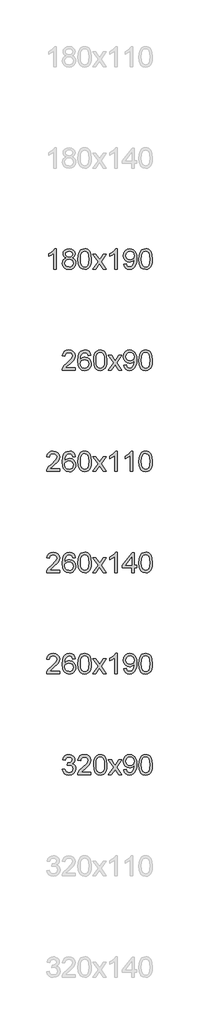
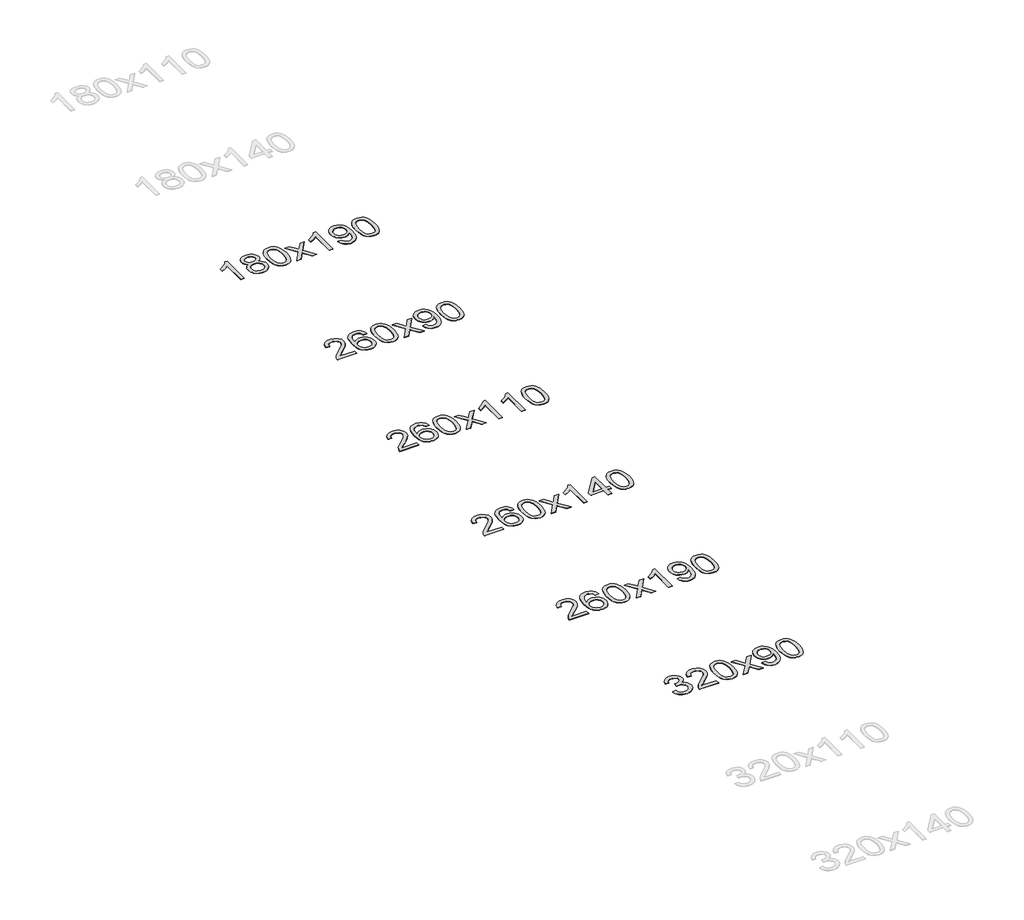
# One storey, part 12 of 17: 6 proxies.
"""IFC4 building model written with IfcOpenShell, lengths in millimetres."""

from ifc_helpers import new_model, si_unit, origin, origin_with_axes, place, context, project, spatial, polyline, outline, extrude, element, save

model = new_model("IFC4")

# Units and contexts
model_context = context("Model", 3, world=origin())
ifc_project = project(units=[si_unit("LENGTHUNIT", "METRE", prefix="MILLI")], contexts=[model_context])

# Site, building, storey
site = spatial("IfcSite", under=ifc_project)
building = spatial("IfcBuilding", under=site)
storey = spatial("IfcBuildingStorey", under=building, Name="Уровень 1", Elevation=0.0)

# Proxies
placement = place(None, origin())
element("IfcBuildingElementProxy", 1, Name="Текст модели 1", ObjectType="Текст модели 1", at=placement, inside=storey, context=model_context, shape_type="SweptSolid", body=[
    extrude(outline(polyline([(34352.7463706, -453.2424702), (34327.632293, -453.2424702), (34327.632293, -296.6718931), (34303.8425907, -313.6189903), (34277.4041379, -326.2986564), (34277.4041379, -302.558005), (34314.2168629, -279.0626083), (34327.6874753, -265.4877626), (34336.5595628, -252.3298499), (34352.7463706, -252.3298499), (34352.7463706, -453.2424702)])), origin_with_axes(), (0.0, 0.0, 1.0), 2.0),
    extrude(outline(polyline([(34448.9843005, -342.5835661), (34435.5382136, -335.9616902), (34426.1020404, -326.9853695), (34420.5286282, -315.838545), (34418.6708241, -302.7051578), (34422.717526, -283.072522), (34434.8576319, -266.848926), (34453.7299782, -255.959619), (34477.9734017, -252.3298499), (34502.363978, -256.0454581), (34521.481579, -267.1922826), (34533.842414, -283.6733959), (34537.9626924, -303.3918709), (34536.1294138, -316.1021938), (34530.629578, -327.0589459), (34521.4018712, -335.9800843), (34508.38498, -342.5835661), (34523.8421551, -350.5482113), (34535.0932128, -362.2775156), (34541.954212, -377.2073932), (34544.2412118, -394.7737585), (34539.7040005, -418.78419), (34526.0923667, -438.6252923), (34505.074042, -451.9426205), (34478.3167582, -456.3817299), (34451.5594745, -451.9242264), (34430.5411498, -438.5517159), (34416.929516, -418.5205413), (34412.3923047, -394.0870454), (34414.7712749, -375.8400985), (34421.9081856, -360.8305131), (34433.4351548, -349.573324), (34448.9843005, -342.5835661)]), holes=[polyline([(34443.7849016, -303.4409218), (34446.0105877, -314.4038053), (34452.6876459, -323.1593968), (34463.6198725, -328.8983559), (34478.6110638, -330.8113423), (34493.2527672, -328.9106186), (34504.019447, -323.2084477), (34510.6413229, -314.7471618), (34512.8486149, -304.5690933), (34510.5677465, -294.0047486), (34503.7251414, -285.2675513), (34492.8113088, -279.3998334), (34478.3167582, -277.4439275), (34463.7302371, -279.3569139), (34452.8347987, -285.095873), (34446.0473759, -293.5081079), (34443.7849016, -303.4409218)]), polyline([(34437.5063822, -393.2041286), (34441.700237, -412.1132632), (34447.5066411, -420.2250612), (34456.5381441, -426.2644573), (34478.512962, -431.2676524), (34495.607212, -428.6372961), (34508.4340309, -420.7462273), (34516.4538584, -408.7961939), (34519.1271342, -393.9889436), (34516.3680193, -378.9303072), (34508.0906744, -366.716625), (34494.9695499, -358.6232211), (34477.6790961, -355.9254198), (34460.8239694, -358.5864329), (34448.1259092, -366.5694722), (34440.161264, -378.5501625), (34437.5063822, -393.2041286)])]), origin_with_axes(), (0.0, 0.0, 1.0), 2.0),
    extrude(outline(polyline([(34566.2160296, -354.4048409), (34568.061571, -322.2458231), (34573.598195, -296.5983167), (34582.7707194, -277.0699141), (34595.5239619, -263.2682079), (34611.949893, -255.0644394), (34632.1404832, -252.3298499), (34647.6160524, -253.9485307), (34661.4729409, -258.8045731), (34673.0612238, -266.7079046), (34681.7309761, -277.468453), (34693.5032, -307.1933182), (34698.0649367, -354.4048409), (34696.2377894, -386.3799176), (34690.7563477, -411.9661104), (34681.6390056, -431.5129071), (34668.9041572, -445.3697956), (34652.4414379, -453.6287463), (34632.1404832, -456.3817299), (34606.045387, -451.599264), (34586.2288102, -437.2518662), (34577.4732187, -422.1227191), (34571.2192248, -403.2718326), (34566.2160296, -354.4048409)]), holes=[polyline([(34591.3301072, -354.3557899), (34594.2731631, -393.8601849), (34603.102331, -416.7240509), (34616.247981, -427.631752), (34632.1404832, -431.2676524), (34648.0329853, -427.6194893), (34661.1786353, -416.6749999), (34670.0078032, -393.7988712), (34672.9508592, -354.3557899), (34670.1059051, -315.7404432), (34661.5710428, -292.6987676), (34648.4499183, -281.2576375), (34631.8461776, -277.4439275), (34616.1253536, -280.8039164), (34603.4947385, -290.883883), (34594.371265, -315.3602985), (34591.3301072, -354.3557899)])]), origin_with_axes(), (0.0, 0.0, 1.0), 2.0),
    extrude(outline(polyline([(34710.6219755, -453.2424702), (34764.2836958, -379.07746), (34713.7612352, -305.6972647), (34743.9766097, -305.6972647), (34768.3549232, -341.0139363), (34779.7347396, -357.6912534), (34789.5939771, -344.0550941), (34817.356805, -305.6972647), (34847.5721795, -305.6972647), (34794.4990704, -379.07746), (34845.6101422, -453.2424702), (34815.3947677, -453.2424702), (34784.6398329, -408.6551724), (34778.9989756, -400.5127176), (34740.83735, -453.2424702), (34710.6219755, -453.2424702)])), origin_with_axes(), (0.0, 0.0, 1.0), 2.0),
    extrude(outline(polyline([(34955.4842314, -453.2424702), (34930.3701539, -453.2424702), (34930.3701539, -296.6718931), (34906.5804516, -313.6189903), (34880.1419988, -326.2986564), (34880.1419988, -302.558005), (34916.9547238, -279.0626083), (34930.4253362, -265.4877626), (34939.2974237, -252.3298499), (34955.4842314, -252.3298499), (34955.4842314, -453.2424702)])), origin_with_axes(), (0.0, 0.0, 1.0), 2.0),
    extrude(outline(polyline([(35018.2694253, -403.0143152), (35043.3835028, -399.8750555), (35047.6754594, -414.1304828), (35054.6652173, -423.8364361), (35064.1810983, -429.4098483), (35076.051424, -431.2676524), (35096.3830356, -426.4851865), (35110.1663477, -413.7074185), (35118.3823789, -391.8797535), (35122.0121479, -362.7434994), (35121.8649951, -357.8384062), (35113.1645859, -368.4579331), (35101.7786382, -376.870168), (35088.528755, -382.3516098), (35074.2365395, -384.178757), (35051.3358853, -379.7151221), (35032.2734666, -366.3242175), (35019.4159908, -345.6369867), (35015.1301656, -319.2843731), (35019.6244573, -292.0611054), (35033.1073324, -270.7239497), (35053.3592363, -256.9283749), (35078.1606141, -252.3298499), (35096.891939, -254.9540748), (35113.9432695, -262.8267495), (35128.2048282, -275.5554666), (35138.5668377, -292.7478185), (35144.8760139, -316.5129954), (35146.9790727, -348.9601873), (35144.8821453, -383.3632853), (35138.5913632, -409.9550221), (35128.1619086, -429.9371459), (35113.6489639, -444.5114042), (35095.6779284, -453.4141485), (35074.8742016, -456.3817299), (35053.4021558, -452.8807196), (35036.2711176, -442.3776887), (35024.2904273, -425.5348246), (35018.2694253, -403.0143152)]), holes=[polyline([(35121.8649951, -318.6957619), (35119.1549311, -301.6750882), (35111.024739, -288.5784892), (35098.4063866, -280.2275679), (35082.2318415, -277.4439275), (35065.4564225, -280.4421657), (35052.016467, -289.4368805), (35043.1872991, -303.2017985), (35040.2442431, -320.5106464), (35043.0278836, -336.0291352), (35051.3788049, -348.3470507), (35064.4876666, -356.3852723), (35081.5451285, -359.0646795), (35097.5909148, -356.3852723), (35110.5097042, -348.3470507), (35119.0261724, -335.5754141), (35121.8649951, -318.6957619)])]), origin_with_axes(), (0.0, 0.0, 1.0), 2.0),
    extrude(outline(polyline([(35168.9538905, -354.4048409), (35170.7994319, -322.2458231), (35176.3360559, -296.5983167), (35185.5085803, -277.0699141), (35198.2618228, -263.2682079), (35214.6877539, -255.0644394), (35234.8783441, -252.3298499), (35250.3539133, -253.9485307), (35264.2108018, -258.8045731), (35275.7990847, -266.7079046), (35284.468837, -277.468453), (35296.2410608, -307.1933182), (35300.8027976, -354.4048409), (35298.9756503, -386.3799176), (35293.4942086, -411.9661104), (35284.3768665, -431.5129071), (35271.6420181, -445.3697956), (35255.1792988, -453.6287463), (35234.8783441, -456.3817299), (35208.7832479, -451.599264), (35188.9666711, -437.2518662), (35180.2110796, -422.1227191), (35173.9570857, -403.2718326), (35168.9538905, -354.4048409)]), holes=[polyline([(35194.0679681, -354.3557899), (35197.011024, -393.8601849), (35205.8401919, -416.7240509), (35218.9858419, -427.631752), (35234.8783441, -431.2676524), (35250.7708462, -427.6194893), (35263.9164962, -416.6749999), (35272.7456641, -393.7988712), (35275.6887201, -354.3557899), (35272.843766, -315.7404432), (35264.3089037, -292.6987676), (35251.1877792, -281.2576375), (35234.5840385, -277.4439275), (35218.8632145, -280.8039164), (35206.2325994, -290.883883), (35197.1091259, -315.3602985), (35194.0679681, -354.3557899)])]), origin_with_axes(), (0.0, 0.0, 1.0), 2.0),
])
element("IfcBuildingElementProxy", 2, Name="Текст модели 1", ObjectType="Текст модели 1", at=placement, inside=storey, context=model_context, shape_type="SweptSolid", body=[
    extrude(outline(polyline([(34387.2782272, -3428.1283927), (34387.2782272, -3453.2424702), (34255.4293201, -3453.2424702), (34258.1271214, -3435.927491), (34273.3819615, -3409.2683091), (34304.8236093, -3380.1565805), (34348.1846338, -3338.316135), (34356.3148259, -3323.8951607), (34359.0248899, -3309.866594), (34356.4681101, -3297.2911611), (34348.7977705, -3286.8371811), (34337.0071525, -3279.7922409), (34322.0895376, -3277.4439275), (34306.423896, -3279.7370586), (34294.2531333, -3286.6164519), (34286.3988527, -3297.5425472), (34283.6826573, -3311.9757841), (34258.5685798, -3308.8365244), (34264.6570268, -3284.54405), (34277.8210709, -3266.7998751), (34297.3739989, -3255.9473562), (34322.6290979, -3252.3298499), (34348.0681378, -3256.3520264), (34367.5842777, -3268.4185559), (34380.000295, -3286.4447736), (34384.1389675, -3308.3460151), (34379.6753326, -3332.1602429), (34364.8374255, -3356.7838111), (34328.8585663, -3391.1930404), (34299.967567, -3415.3506247), (34288.6368015, -3428.1283927), (34387.2782272, -3428.1283927)])), origin_with_axes(), (0.0, 0.0, 1.0), 2.0),
    extrude(outline(polyline([(34541.1019521, -3305.6972647), (34515.9878745, -3308.8365244), (34506.4719936, -3287.8917761), (34495.0799145, -3280.0558897), (34481.3088651, -3277.4439275), (34458.6473342, -3283.5262431), (34449.2111611, -3293.1340946), (34441.5040333, -3306.3594523), (34436.298503, -3325.0662518), (34434.3671225, -3351.1184284), (34444.4409578, -3339.3645986), (34456.5136187, -3331.0811224), (34469.9106546, -3326.1698977), (34483.9576155, -3324.5328229), (34507.1587067, -3329.0087205), (34526.6319269, -3342.4364133), (34539.8388906, -3362.9519659), (34544.2412118, -3388.6914428), (34542.1688099, -3406.674741), (34535.9516042, -3423.3459268), (34526.1046294, -3437.4848581), (34513.1429204, -3447.8713931), (34497.6550885, -3454.2541457), (34480.2297446, -3456.3817299), (34451.7372841, -3450.7408727), (34429.0450964, -3433.8183009), (34420.3860739, -3420.7094391), (34414.2010578, -3403.9462829), (34409.253045, -3359.4570869), (34414.7467495, -3309.4373983), (34421.61388, -3290.3596512), (34431.2278629, -3275.2366355), (34441.6481204, -3265.2149168), (34453.7299782, -3258.0565463), (34482.878495, -3252.3298499), (34504.9146265, -3255.8737798), (34522.5606995, -3266.5055695), (34534.9215346, -3283.3913531), (34541.1019521, -3305.6972647)]), holes=[polyline([(34434.3671225, -3388.2990354), (34440.1796581, -3410.053124), (34455.6307019, -3425.8475243), (34478.2677073, -3431.2676524), (34494.8407912, -3428.4594865), (34507.8699452, -3420.0349888), (34516.312837, -3406.791237), (34519.1271342, -3389.5253087), (34516.3496252, -3372.9522248), (34508.017098, -3360.3154783), (34494.7672148, -3352.3140449), (34477.2376377, -3349.6469004), (34460.6890793, -3352.3140449), (34446.8505849, -3360.3154783), (34437.4879881, -3372.6456565), (34434.3671225, -3388.2990354)])]), origin_with_axes(), (0.0, 0.0, 1.0), 2.0),
    extrude(outline(polyline([(34566.2160296, -3354.4048409), (34568.061571, -3322.2458231), (34573.598195, -3296.5983167), (34582.7707194, -3277.0699141), (34595.5239619, -3263.2682079), (34611.949893, -3255.0644394), (34632.1404832, -3252.3298499), (34647.6160524, -3253.9485307), (34661.4729409, -3258.8045731), (34673.0612238, -3266.7079046), (34681.7309761, -3277.468453), (34693.5032, -3307.1933182), (34698.0649367, -3354.4048409), (34696.2377894, -3386.3799176), (34690.7563477, -3411.9661104), (34681.6390056, -3431.5129071), (34668.9041572, -3445.3697956), (34652.4414379, -3453.6287463), (34632.1404832, -3456.3817299), (34606.045387, -3451.599264), (34586.2288102, -3437.2518662), (34577.4732187, -3422.1227191), (34571.2192248, -3403.2718326), (34566.2160296, -3354.4048409)]), holes=[polyline([(34591.3301072, -3354.3557899), (34594.2731631, -3393.8601849), (34603.102331, -3416.7240509), (34616.247981, -3427.631752), (34632.1404832, -3431.2676524), (34648.0329853, -3427.6194893), (34661.1786353, -3416.6749999), (34670.0078032, -3393.7988712), (34672.9508592, -3354.3557899), (34670.1059051, -3315.7404432), (34661.5710428, -3292.6987676), (34648.4499183, -3281.2576375), (34631.8461776, -3277.4439275), (34616.1253536, -3280.8039164), (34603.4947385, -3290.883883), (34594.371265, -3315.3602985), (34591.3301072, -3354.3557899)])]), origin_with_axes(), (0.0, 0.0, 1.0), 2.0),
    extrude(outline(polyline([(34710.6219755, -3453.2424702), (34764.2836958, -3379.07746), (34713.7612352, -3305.6972647), (34743.9766097, -3305.6972647), (34768.3549232, -3341.0139363), (34779.7347396, -3357.6912534), (34789.5939771, -3344.0550941), (34817.356805, -3305.6972647), (34847.5721795, -3305.6972647), (34794.4990704, -3379.07746), (34845.6101422, -3453.2424702), (34815.3947677, -3453.2424702), (34784.6398329, -3408.6551724), (34778.9989756, -3400.5127176), (34740.83735, -3453.2424702), (34710.6219755, -3453.2424702)])), origin_with_axes(), (0.0, 0.0, 1.0), 2.0),
    extrude(outline(polyline([(34955.4842314, -3453.2424702), (34930.3701539, -3453.2424702), (34930.3701539, -3296.6718931), (34906.5804516, -3313.6189903), (34880.1419988, -3326.2986564), (34880.1419988, -3302.558005), (34916.9547238, -3279.0626083), (34930.4253362, -3265.4877626), (34939.2974237, -3252.3298499), (34955.4842314, -3252.3298499), (34955.4842314, -3453.2424702)])), origin_with_axes(), (0.0, 0.0, 1.0), 2.0),
    extrude(outline(polyline([(35096.7509176, -3453.2424702), (35096.7509176, -3406.1535749), (35005.7123865, -3406.1535749), (35005.7123865, -3381.0394973), (35103.029437, -3255.4691096), (35121.8649951, -3255.4691096), (35121.8649951, -3381.0394973), (35146.9790727, -3381.0394973), (35146.9790727, -3406.1535749), (35121.8649951, -3406.1535749), (35121.8649951, -3453.2424702), (35096.7509176, -3453.2424702)]), holes=[polyline([(35096.7509176, -3381.0394973), (35096.7509176, -3303.4409218), (35036.6144741, -3381.0394973), (35096.7509176, -3381.0394973)])]), origin_with_axes(), (0.0, 0.0, 1.0), 2.0),
    extrude(outline(polyline([(35168.9538905, -3354.4048409), (35170.7994319, -3322.2458231), (35176.3360559, -3296.5983167), (35185.5085803, -3277.0699141), (35198.2618228, -3263.2682079), (35214.6877539, -3255.0644394), (35234.8783441, -3252.3298499), (35250.3539133, -3253.9485307), (35264.2108018, -3258.8045731), (35275.7990847, -3266.7079046), (35284.468837, -3277.468453), (35296.2410608, -3307.1933182), (35300.8027976, -3354.4048409), (35298.9756503, -3386.3799176), (35293.4942086, -3411.9661104), (35284.3768665, -3431.5129071), (35271.6420181, -3445.3697956), (35255.1792988, -3453.6287463), (35234.8783441, -3456.3817299), (35208.7832479, -3451.599264), (35188.9666711, -3437.2518662), (35180.2110796, -3422.1227191), (35173.9570857, -3403.2718326), (35168.9538905, -3354.4048409)]), holes=[polyline([(35194.0679681, -3354.3557899), (35197.011024, -3393.8601849), (35205.8401919, -3416.7240509), (35218.9858419, -3427.631752), (35234.8783441, -3431.2676524), (35250.7708462, -3427.6194893), (35263.9164962, -3416.6749999), (35272.7456641, -3393.7988712), (35275.6887201, -3354.3557899), (35272.843766, -3315.7404432), (35264.3089037, -3292.6987676), (35251.1877792, -3281.2576375), (35234.5840385, -3277.4439275), (35218.8632145, -3280.8039164), (35206.2325994, -3290.883883), (35197.1091259, -3315.3602985), (35194.0679681, -3354.3557899)])]), origin_with_axes(), (0.0, 0.0, 1.0), 2.0),
])
element("IfcBuildingElementProxy", 3, Name="Текст модели 1", ObjectType="Текст модели 1", at=placement, inside=storey, context=model_context, shape_type="SweptSolid", body=[
    extrude(outline(polyline([(34387.2782272, -4428.1283927), (34387.2782272, -4453.2424702), (34255.4293201, -4453.2424702), (34258.1271214, -4435.927491), (34273.3819615, -4409.2683091), (34304.8236093, -4380.1565805), (34348.1846338, -4338.316135), (34356.3148259, -4323.8951607), (34359.0248899, -4309.866594), (34356.4681101, -4297.2911611), (34348.7977705, -4286.8371811), (34337.0071525, -4279.7922409), (34322.0895376, -4277.4439275), (34306.423896, -4279.7370586), (34294.2531333, -4286.6164519), (34286.3988527, -4297.5425472), (34283.6826573, -4311.9757841), (34258.5685798, -4308.8365244), (34264.6570268, -4284.54405), (34277.8210709, -4266.7998751), (34297.3739989, -4255.9473562), (34322.6290979, -4252.3298499), (34348.0681378, -4256.3520264), (34367.5842777, -4268.4185559), (34380.000295, -4286.4447736), (34384.1389675, -4308.3460151), (34379.6753326, -4332.1602429), (34364.8374255, -4356.7838111), (34328.8585663, -4391.1930404), (34299.967567, -4415.3506247), (34288.6368015, -4428.1283927), (34387.2782272, -4428.1283927)])), origin_with_axes(), (0.0, 0.0, 1.0), 2.0),
    extrude(outline(polyline([(34541.1019521, -4305.6972647), (34515.9878745, -4308.8365244), (34506.4719936, -4287.8917761), (34495.0799145, -4280.0558897), (34481.3088651, -4277.4439275), (34458.6473342, -4283.5262431), (34449.2111611, -4293.1340946), (34441.5040333, -4306.3594523), (34436.298503, -4325.0662518), (34434.3671225, -4351.1184284), (34444.4409578, -4339.3645986), (34456.5136187, -4331.0811224), (34469.9106546, -4326.1698977), (34483.9576155, -4324.5328229), (34507.1587067, -4329.0087205), (34526.6319269, -4342.4364133), (34539.8388906, -4362.9519659), (34544.2412118, -4388.6914428), (34542.1688099, -4406.674741), (34535.9516042, -4423.3459268), (34526.1046294, -4437.4848581), (34513.1429204, -4447.8713931), (34497.6550885, -4454.2541457), (34480.2297446, -4456.3817299), (34451.7372841, -4450.7408727), (34429.0450964, -4433.8183009), (34420.3860739, -4420.7094391), (34414.2010578, -4403.9462829), (34409.253045, -4359.4570869), (34414.7467495, -4309.4373983), (34421.61388, -4290.3596512), (34431.2278629, -4275.2366355), (34441.6481204, -4265.2149168), (34453.7299782, -4258.0565463), (34482.878495, -4252.3298499), (34504.9146265, -4255.8737798), (34522.5606995, -4266.5055695), (34534.9215346, -4283.3913531), (34541.1019521, -4305.6972647)]), holes=[polyline([(34434.3671225, -4388.2990354), (34440.1796581, -4410.053124), (34455.6307019, -4425.8475243), (34478.2677073, -4431.2676524), (34494.8407912, -4428.4594865), (34507.8699452, -4420.0349888), (34516.312837, -4406.791237), (34519.1271342, -4389.5253087), (34516.3496252, -4372.9522248), (34508.017098, -4360.3154783), (34494.7672148, -4352.3140449), (34477.2376377, -4349.6469004), (34460.6890793, -4352.3140449), (34446.8505849, -4360.3154783), (34437.4879881, -4372.6456565), (34434.3671225, -4388.2990354)])]), origin_with_axes(), (0.0, 0.0, 1.0), 2.0),
    extrude(outline(polyline([(34566.2160296, -4354.4048409), (34568.061571, -4322.2458231), (34573.598195, -4296.5983167), (34582.7707194, -4277.0699141), (34595.5239619, -4263.2682079), (34611.949893, -4255.0644394), (34632.1404832, -4252.3298499), (34647.6160524, -4253.9485307), (34661.4729409, -4258.8045731), (34673.0612238, -4266.7079046), (34681.7309761, -4277.468453), (34693.5032, -4307.1933182), (34698.0649367, -4354.4048409), (34696.2377894, -4386.3799176), (34690.7563477, -4411.9661104), (34681.6390056, -4431.5129071), (34668.9041572, -4445.3697956), (34652.4414379, -4453.6287463), (34632.1404832, -4456.3817299), (34606.045387, -4451.599264), (34586.2288102, -4437.2518662), (34577.4732187, -4422.1227191), (34571.2192248, -4403.2718326), (34566.2160296, -4354.4048409)]), holes=[polyline([(34591.3301072, -4354.3557899), (34594.2731631, -4393.8601849), (34603.102331, -4416.7240509), (34616.247981, -4427.631752), (34632.1404832, -4431.2676524), (34648.0329853, -4427.6194893), (34661.1786353, -4416.6749999), (34670.0078032, -4393.7988712), (34672.9508592, -4354.3557899), (34670.1059051, -4315.7404432), (34661.5710428, -4292.6987676), (34648.4499183, -4281.2576375), (34631.8461776, -4277.4439275), (34616.1253536, -4280.8039164), (34603.4947385, -4290.883883), (34594.371265, -4315.3602985), (34591.3301072, -4354.3557899)])]), origin_with_axes(), (0.0, 0.0, 1.0), 2.0),
    extrude(outline(polyline([(34710.6219755, -4453.2424702), (34764.2836958, -4379.07746), (34713.7612352, -4305.6972647), (34743.9766097, -4305.6972647), (34768.3549232, -4341.0139363), (34779.7347396, -4357.6912534), (34789.5939771, -4344.0550941), (34817.356805, -4305.6972647), (34847.5721795, -4305.6972647), (34794.4990704, -4379.07746), (34845.6101422, -4453.2424702), (34815.3947677, -4453.2424702), (34784.6398329, -4408.6551724), (34778.9989756, -4400.5127176), (34740.83735, -4453.2424702), (34710.6219755, -4453.2424702)])), origin_with_axes(), (0.0, 0.0, 1.0), 2.0),
    extrude(outline(polyline([(34955.4842314, -4453.2424702), (34930.3701539, -4453.2424702), (34930.3701539, -4296.6718931), (34906.5804516, -4313.6189903), (34880.1419988, -4326.2986564), (34880.1419988, -4302.558005), (34916.9547238, -4279.0626083), (34930.4253362, -4265.4877626), (34939.2974237, -4252.3298499), (34955.4842314, -4252.3298499), (34955.4842314, -4453.2424702)])), origin_with_axes(), (0.0, 0.0, 1.0), 2.0),
    extrude(outline(polyline([(35018.2694253, -4403.0143152), (35043.3835028, -4399.8750555), (35047.6754594, -4414.1304828), (35054.6652173, -4423.8364361), (35064.1810983, -4429.4098483), (35076.051424, -4431.2676524), (35096.3830356, -4426.4851865), (35110.1663477, -4413.7074185), (35118.3823789, -4391.8797535), (35122.0121479, -4362.7434994), (35121.8649951, -4357.8384062), (35113.1645859, -4368.4579331), (35101.7786382, -4376.870168), (35088.528755, -4382.3516098), (35074.2365395, -4384.178757), (35051.3358853, -4379.7151221), (35032.2734666, -4366.3242175), (35019.4159908, -4345.6369867), (35015.1301656, -4319.2843731), (35019.6244573, -4292.0611054), (35033.1073324, -4270.7239497), (35053.3592363, -4256.9283749), (35078.1606141, -4252.3298499), (35096.891939, -4254.9540748), (35113.9432695, -4262.8267495), (35128.2048282, -4275.5554666), (35138.5668377, -4292.7478185), (35144.8760139, -4316.5129954), (35146.9790727, -4348.9601873), (35144.8821453, -4383.3632853), (35138.5913632, -4409.9550221), (35128.1619086, -4429.9371459), (35113.6489639, -4444.5114042), (35095.6779284, -4453.4141485), (35074.8742016, -4456.3817299), (35053.4021558, -4452.8807196), (35036.2711176, -4442.3776887), (35024.2904273, -4425.5348246), (35018.2694253, -4403.0143152)]), holes=[polyline([(35121.8649951, -4318.6957619), (35119.1549311, -4301.6750882), (35111.024739, -4288.5784892), (35098.4063866, -4280.2275679), (35082.2318415, -4277.4439275), (35065.4564225, -4280.4421657), (35052.016467, -4289.4368805), (35043.1872991, -4303.2017985), (35040.2442431, -4320.5106464), (35043.0278836, -4336.0291352), (35051.3788049, -4348.3470507), (35064.4876666, -4356.3852723), (35081.5451285, -4359.0646795), (35097.5909148, -4356.3852723), (35110.5097042, -4348.3470507), (35119.0261724, -4335.5754141), (35121.8649951, -4318.6957619)])]), origin_with_axes(), (0.0, 0.0, 1.0), 2.0),
    extrude(outline(polyline([(35168.9538905, -4354.4048409), (35170.7994319, -4322.2458231), (35176.3360559, -4296.5983167), (35185.5085803, -4277.0699141), (35198.2618228, -4263.2682079), (35214.6877539, -4255.0644394), (35234.8783441, -4252.3298499), (35250.3539133, -4253.9485307), (35264.2108018, -4258.8045731), (35275.7990847, -4266.7079046), (35284.468837, -4277.468453), (35296.2410608, -4307.1933182), (35300.8027976, -4354.4048409), (35298.9756503, -4386.3799176), (35293.4942086, -4411.9661104), (35284.3768665, -4431.5129071), (35271.6420181, -4445.3697956), (35255.1792988, -4453.6287463), (35234.8783441, -4456.3817299), (35208.7832479, -4451.599264), (35188.9666711, -4437.2518662), (35180.2110796, -4422.1227191), (35173.9570857, -4403.2718326), (35168.9538905, -4354.4048409)]), holes=[polyline([(35194.0679681, -4354.3557899), (35197.011024, -4393.8601849), (35205.8401919, -4416.7240509), (35218.9858419, -4427.631752), (35234.8783441, -4431.2676524), (35250.7708462, -4427.6194893), (35263.9164962, -4416.6749999), (35272.7456641, -4393.7988712), (35275.6887201, -4354.3557899), (35272.843766, -4315.7404432), (35264.3089037, -4292.6987676), (35251.1877792, -4281.2576375), (35234.5840385, -4277.4439275), (35218.8632145, -4280.8039164), (35206.2325994, -4290.883883), (35197.1091259, -4315.3602985), (35194.0679681, -4354.3557899)])]), origin_with_axes(), (0.0, 0.0, 1.0), 2.0),
])
element("IfcBuildingElementProxy", 4, Name="Текст модели 1", ObjectType="Текст модели 1", at=placement, inside=storey, context=model_context, shape_type="SweptSolid", body=[
    extrude(outline(polyline([(34541.1019521, -1428.1283927), (34541.1019521, -1453.2424702), (34409.253045, -1453.2424702), (34411.9508463, -1435.927491), (34427.2056864, -1409.2683091), (34458.6473342, -1380.1565805), (34502.0083587, -1338.316135), (34510.1385508, -1323.8951607), (34512.8486149, -1309.866594), (34510.291835, -1297.2911611), (34502.6214954, -1286.8371811), (34490.8308774, -1279.7922409), (34475.9132625, -1277.4439275), (34460.2476209, -1279.7370586), (34448.0768582, -1286.6164519), (34440.2225776, -1297.5425472), (34437.5063822, -1311.9757841), (34412.3923047, -1308.8365244), (34418.4807517, -1284.54405), (34431.6447958, -1266.7998751), (34451.1977238, -1255.9473562), (34476.4528228, -1252.3298499), (34501.8918628, -1256.3520264), (34521.4080026, -1268.4185559), (34533.8240199, -1286.4447736), (34537.9626924, -1308.3460151), (34533.4990575, -1332.1602429), (34518.6611504, -1356.7838111), (34482.6822912, -1391.1930404), (34453.7912919, -1415.3506247), (34442.4605264, -1428.1283927), (34541.1019521, -1428.1283927)])), origin_with_axes(), (0.0, 0.0, 1.0), 2.0),
    extrude(outline(polyline([(34694.925677, -1305.6972647), (34669.8115995, -1308.8365244), (34660.2957185, -1287.8917761), (34648.9036394, -1280.0558897), (34635.13259, -1277.4439275), (34612.4710591, -1283.5262431), (34603.034886, -1293.1340946), (34595.3277582, -1306.3594523), (34590.1222279, -1325.0662518), (34588.1908475, -1351.1184284), (34598.2646828, -1339.3645986), (34610.3373436, -1331.0811224), (34623.7343796, -1326.1698977), (34637.7813404, -1324.5328229), (34660.9824316, -1329.0087205), (34680.4556519, -1342.4364133), (34693.6626155, -1362.9519659), (34698.0649367, -1388.6914428), (34695.9925348, -1406.674741), (34689.7753291, -1423.3459268), (34679.9283543, -1437.4848581), (34666.9666454, -1447.8713931), (34651.4788134, -1454.2541457), (34634.0534695, -1456.3817299), (34605.561009, -1450.7408727), (34582.8688213, -1433.8183009), (34574.2097988, -1420.7094391), (34568.0247828, -1403.9462829), (34563.0767699, -1359.4570869), (34568.5704744, -1309.4373983), (34575.437605, -1290.3596512), (34585.0515878, -1275.2366355), (34595.4718453, -1265.2149168), (34607.5537031, -1258.0565463), (34636.7022199, -1252.3298499), (34658.7383514, -1255.8737798), (34676.3844244, -1266.5055695), (34688.7452595, -1283.3913531), (34694.925677, -1305.6972647)]), holes=[polyline([(34588.1908475, -1388.2990354), (34594.003383, -1410.053124), (34609.4544268, -1425.8475243), (34632.0914322, -1431.2676524), (34648.6645161, -1428.4594865), (34661.6936701, -1420.0349888), (34670.1365619, -1406.791237), (34672.9508592, -1389.5253087), (34670.1733501, -1372.9522248), (34661.8408229, -1360.3154783), (34648.5909397, -1352.3140449), (34631.0613626, -1349.6469004), (34614.5128042, -1352.3140449), (34600.6743098, -1360.3154783), (34591.3117131, -1372.6456565), (34588.1908475, -1388.2990354)])]), origin_with_axes(), (0.0, 0.0, 1.0), 2.0),
    extrude(outline(polyline([(34720.0397545, -1354.4048409), (34721.8852959, -1322.2458231), (34727.4219199, -1296.5983167), (34736.5944443, -1277.0699141), (34749.3476868, -1263.2682079), (34765.7736179, -1255.0644394), (34785.9642081, -1252.3298499), (34801.4397773, -1253.9485307), (34815.2966658, -1258.8045731), (34826.8849487, -1266.7079046), (34835.554701, -1277.468453), (34847.3269249, -1307.1933182), (34851.8886616, -1354.4048409), (34850.0615144, -1386.3799176), (34844.5800726, -1411.9661104), (34835.4627305, -1431.5129071), (34822.7278821, -1445.3697956), (34806.2651628, -1453.6287463), (34785.9642081, -1456.3817299), (34759.8691119, -1451.599264), (34740.0525351, -1437.2518662), (34731.2969436, -1422.1227191), (34725.0429497, -1403.2718326), (34720.0397545, -1354.4048409)]), holes=[polyline([(34745.1538321, -1354.3557899), (34748.096888, -1393.8601849), (34756.9260559, -1416.7240509), (34770.0717059, -1427.631752), (34785.9642081, -1431.2676524), (34801.8567103, -1427.6194893), (34815.0023602, -1416.6749999), (34823.8315281, -1393.7988712), (34826.7745841, -1354.3557899), (34823.92963, -1315.7404432), (34815.3947677, -1292.6987676), (34802.2736432, -1281.2576375), (34785.6699025, -1277.4439275), (34769.9490785, -1280.8039164), (34757.3184634, -1290.883883), (34748.1949899, -1315.3602985), (34745.1538321, -1354.3557899)])]), origin_with_axes(), (0.0, 0.0, 1.0), 2.0),
    extrude(outline(polyline([(34864.4457004, -1453.2424702), (34918.1074207, -1379.07746), (34867.5849601, -1305.6972647), (34897.8003346, -1305.6972647), (34922.1786482, -1341.0139363), (34933.5584645, -1357.6912534), (34943.417702, -1344.0550941), (34971.1805299, -1305.6972647), (35001.3959044, -1305.6972647), (34948.3227953, -1379.07746), (34999.4338671, -1453.2424702), (34969.2184926, -1453.2424702), (34938.4635578, -1408.6551724), (34932.8227005, -1400.5127176), (34894.6610749, -1453.2424702), (34864.4457004, -1453.2424702)])), origin_with_axes(), (0.0, 0.0, 1.0), 2.0),
    extrude(outline(polyline([(35018.2694253, -1403.0143152), (35043.3835028, -1399.8750555), (35047.6754594, -1414.1304828), (35054.6652173, -1423.8364361), (35064.1810983, -1429.4098483), (35076.051424, -1431.2676524), (35096.3830356, -1426.4851865), (35110.1663477, -1413.7074185), (35118.3823789, -1391.8797535), (35122.0121479, -1362.7434994), (35121.8649951, -1357.8384062), (35113.1645859, -1368.4579331), (35101.7786382, -1376.870168), (35088.528755, -1382.3516098), (35074.2365395, -1384.178757), (35051.3358853, -1379.7151221), (35032.2734666, -1366.3242175), (35019.4159908, -1345.6369867), (35015.1301656, -1319.2843731), (35019.6244573, -1292.0611054), (35033.1073324, -1270.7239497), (35053.3592363, -1256.9283749), (35078.1606141, -1252.3298499), (35096.891939, -1254.9540748), (35113.9432695, -1262.8267495), (35128.2048282, -1275.5554666), (35138.5668377, -1292.7478185), (35144.8760139, -1316.5129954), (35146.9790727, -1348.9601873), (35144.8821453, -1383.3632853), (35138.5913632, -1409.9550221), (35128.1619086, -1429.9371459), (35113.6489639, -1444.5114042), (35095.6779284, -1453.4141485), (35074.8742016, -1456.3817299), (35053.4021558, -1452.8807196), (35036.2711176, -1442.3776887), (35024.2904273, -1425.5348246), (35018.2694253, -1403.0143152)]), holes=[polyline([(35121.8649951, -1318.6957619), (35119.1549311, -1301.6750882), (35111.024739, -1288.5784892), (35098.4063866, -1280.2275679), (35082.2318415, -1277.4439275), (35065.4564225, -1280.4421657), (35052.016467, -1289.4368805), (35043.1872991, -1303.2017985), (35040.2442431, -1320.5106464), (35043.0278836, -1336.0291352), (35051.3788049, -1348.3470507), (35064.4876666, -1356.3852723), (35081.5451285, -1359.0646795), (35097.5909148, -1356.3852723), (35110.5097042, -1348.3470507), (35119.0261724, -1335.5754141), (35121.8649951, -1318.6957619)])]), origin_with_axes(), (0.0, 0.0, 1.0), 2.0),
    extrude(outline(polyline([(35168.9538905, -1354.4048409), (35170.7994319, -1322.2458231), (35176.3360559, -1296.5983167), (35185.5085803, -1277.0699141), (35198.2618228, -1263.2682079), (35214.6877539, -1255.0644394), (35234.8783441, -1252.3298499), (35250.3539133, -1253.9485307), (35264.2108018, -1258.8045731), (35275.7990847, -1266.7079046), (35284.468837, -1277.468453), (35296.2410608, -1307.1933182), (35300.8027976, -1354.4048409), (35298.9756503, -1386.3799176), (35293.4942086, -1411.9661104), (35284.3768665, -1431.5129071), (35271.6420181, -1445.3697956), (35255.1792988, -1453.6287463), (35234.8783441, -1456.3817299), (35208.7832479, -1451.599264), (35188.9666711, -1437.2518662), (35180.2110796, -1422.1227191), (35173.9570857, -1403.2718326), (35168.9538905, -1354.4048409)]), holes=[polyline([(35194.0679681, -1354.3557899), (35197.011024, -1393.8601849), (35205.8401919, -1416.7240509), (35218.9858419, -1427.631752), (35234.8783441, -1431.2676524), (35250.7708462, -1427.6194893), (35263.9164962, -1416.6749999), (35272.7456641, -1393.7988712), (35275.6887201, -1354.3557899), (35272.843766, -1315.7404432), (35264.3089037, -1292.6987676), (35251.1877792, -1281.2576375), (35234.5840385, -1277.4439275), (35218.8632145, -1280.8039164), (35206.2325994, -1290.883883), (35197.1091259, -1315.3602985), (35194.0679681, -1354.3557899)])]), origin_with_axes(), (0.0, 0.0, 1.0), 2.0),
])
element("IfcBuildingElementProxy", 5, Name="Текст модели 1", ObjectType="Текст модели 1", at=placement, inside=storey, context=model_context, shape_type="SweptSolid", body=[
    extrude(outline(polyline([(34387.2782272, -2428.1283927), (34387.2782272, -2453.2424702), (34255.4293201, -2453.2424702), (34258.1271214, -2435.927491), (34273.3819615, -2409.2683091), (34304.8236093, -2380.1565805), (34348.1846338, -2338.316135), (34356.3148259, -2323.8951607), (34359.0248899, -2309.866594), (34356.4681101, -2297.2911611), (34348.7977705, -2286.8371811), (34337.0071525, -2279.7922409), (34322.0895376, -2277.4439275), (34306.423896, -2279.7370586), (34294.2531333, -2286.6164519), (34286.3988527, -2297.5425472), (34283.6826573, -2311.9757841), (34258.5685798, -2308.8365244), (34264.6570268, -2284.54405), (34277.8210709, -2266.7998751), (34297.3739989, -2255.9473562), (34322.6290979, -2252.3298499), (34348.0681378, -2256.3520264), (34367.5842777, -2268.4185559), (34380.000295, -2286.4447736), (34384.1389675, -2308.3460151), (34379.6753326, -2332.1602429), (34364.8374255, -2356.7838111), (34328.8585663, -2391.1930404), (34299.967567, -2415.3506247), (34288.6368015, -2428.1283927), (34387.2782272, -2428.1283927)])), origin_with_axes(), (0.0, 0.0, 1.0), 2.0),
    extrude(outline(polyline([(34541.1019521, -2305.6972647), (34515.9878745, -2308.8365244), (34506.4719936, -2287.8917761), (34495.0799145, -2280.0558897), (34481.3088651, -2277.4439275), (34458.6473342, -2283.5262431), (34449.2111611, -2293.1340946), (34441.5040333, -2306.3594523), (34436.298503, -2325.0662518), (34434.3671225, -2351.1184284), (34444.4409578, -2339.3645986), (34456.5136187, -2331.0811224), (34469.9106546, -2326.1698977), (34483.9576155, -2324.5328229), (34507.1587067, -2329.0087205), (34526.6319269, -2342.4364133), (34539.8388906, -2362.9519659), (34544.2412118, -2388.6914428), (34542.1688099, -2406.674741), (34535.9516042, -2423.3459268), (34526.1046294, -2437.4848581), (34513.1429204, -2447.8713931), (34497.6550885, -2454.2541457), (34480.2297446, -2456.3817299), (34451.7372841, -2450.7408727), (34429.0450964, -2433.8183009), (34420.3860739, -2420.7094391), (34414.2010578, -2403.9462829), (34409.253045, -2359.4570869), (34414.7467495, -2309.4373983), (34421.61388, -2290.3596512), (34431.2278629, -2275.2366355), (34441.6481204, -2265.2149168), (34453.7299782, -2258.0565463), (34482.878495, -2252.3298499), (34504.9146265, -2255.8737798), (34522.5606995, -2266.5055695), (34534.9215346, -2283.3913531), (34541.1019521, -2305.6972647)]), holes=[polyline([(34434.3671225, -2388.2990354), (34440.1796581, -2410.053124), (34455.6307019, -2425.8475243), (34478.2677073, -2431.2676524), (34494.8407912, -2428.4594865), (34507.8699452, -2420.0349888), (34516.312837, -2406.791237), (34519.1271342, -2389.5253087), (34516.3496252, -2372.9522248), (34508.017098, -2360.3154783), (34494.7672148, -2352.3140449), (34477.2376377, -2349.6469004), (34460.6890793, -2352.3140449), (34446.8505849, -2360.3154783), (34437.4879881, -2372.6456565), (34434.3671225, -2388.2990354)])]), origin_with_axes(), (0.0, 0.0, 1.0), 2.0),
    extrude(outline(polyline([(34566.2160296, -2354.4048409), (34568.061571, -2322.2458231), (34573.598195, -2296.5983167), (34582.7707194, -2277.0699141), (34595.5239619, -2263.2682079), (34611.949893, -2255.0644394), (34632.1404832, -2252.3298499), (34647.6160524, -2253.9485307), (34661.4729409, -2258.8045731), (34673.0612238, -2266.7079046), (34681.7309761, -2277.468453), (34693.5032, -2307.1933182), (34698.0649367, -2354.4048409), (34696.2377894, -2386.3799176), (34690.7563477, -2411.9661104), (34681.6390056, -2431.5129071), (34668.9041572, -2445.3697956), (34652.4414379, -2453.6287463), (34632.1404832, -2456.3817299), (34606.045387, -2451.599264), (34586.2288102, -2437.2518662), (34577.4732187, -2422.1227191), (34571.2192248, -2403.2718326), (34566.2160296, -2354.4048409)]), holes=[polyline([(34591.3301072, -2354.3557899), (34594.2731631, -2393.8601849), (34603.102331, -2416.7240509), (34616.247981, -2427.631752), (34632.1404832, -2431.2676524), (34648.0329853, -2427.6194893), (34661.1786353, -2416.6749999), (34670.0078032, -2393.7988712), (34672.9508592, -2354.3557899), (34670.1059051, -2315.7404432), (34661.5710428, -2292.6987676), (34648.4499183, -2281.2576375), (34631.8461776, -2277.4439275), (34616.1253536, -2280.8039164), (34603.4947385, -2290.883883), (34594.371265, -2315.3602985), (34591.3301072, -2354.3557899)])]), origin_with_axes(), (0.0, 0.0, 1.0), 2.0),
    extrude(outline(polyline([(34710.6219755, -2453.2424702), (34764.2836958, -2379.07746), (34713.7612352, -2305.6972647), (34743.9766097, -2305.6972647), (34768.3549232, -2341.0139363), (34779.7347396, -2357.6912534), (34789.5939771, -2344.0550941), (34817.356805, -2305.6972647), (34847.5721795, -2305.6972647), (34794.4990704, -2379.07746), (34845.6101422, -2453.2424702), (34815.3947677, -2453.2424702), (34784.6398329, -2408.6551724), (34778.9989756, -2400.5127176), (34740.83735, -2453.2424702), (34710.6219755, -2453.2424702)])), origin_with_axes(), (0.0, 0.0, 1.0), 2.0),
    extrude(outline(polyline([(34955.4842314, -2453.2424702), (34930.3701539, -2453.2424702), (34930.3701539, -2296.6718931), (34906.5804516, -2313.6189903), (34880.1419988, -2326.2986564), (34880.1419988, -2302.558005), (34916.9547238, -2279.0626083), (34930.4253362, -2265.4877626), (34939.2974237, -2252.3298499), (34955.4842314, -2252.3298499), (34955.4842314, -2453.2424702)])), origin_with_axes(), (0.0, 0.0, 1.0), 2.0),
    extrude(outline(polyline([(35109.3079564, -2453.2424702), (35084.1938788, -2453.2424702), (35084.1938788, -2296.6718931), (35060.4041765, -2313.6189903), (35033.9657238, -2326.2986564), (35033.9657238, -2302.558005), (35070.7784487, -2279.0626083), (35084.2490611, -2265.4877626), (35093.1211486, -2252.3298499), (35109.3079564, -2252.3298499), (35109.3079564, -2453.2424702)])), origin_with_axes(), (0.0, 0.0, 1.0), 2.0),
    extrude(outline(polyline([(35168.9538905, -2354.4048409), (35170.7994319, -2322.2458231), (35176.3360559, -2296.5983167), (35185.5085803, -2277.0699141), (35198.2618228, -2263.2682079), (35214.6877539, -2255.0644394), (35234.8783441, -2252.3298499), (35250.3539133, -2253.9485307), (35264.2108018, -2258.8045731), (35275.7990847, -2266.7079046), (35284.468837, -2277.468453), (35296.2410608, -2307.1933182), (35300.8027976, -2354.4048409), (35298.9756503, -2386.3799176), (35293.4942086, -2411.9661104), (35284.3768665, -2431.5129071), (35271.6420181, -2445.3697956), (35255.1792988, -2453.6287463), (35234.8783441, -2456.3817299), (35208.7832479, -2451.599264), (35188.9666711, -2437.2518662), (35180.2110796, -2422.1227191), (35173.9570857, -2403.2718326), (35168.9538905, -2354.4048409)]), holes=[polyline([(35194.0679681, -2354.3557899), (35197.011024, -2393.8601849), (35205.8401919, -2416.7240509), (35218.9858419, -2427.631752), (35234.8783441, -2431.2676524), (35250.7708462, -2427.6194893), (35263.9164962, -2416.6749999), (35272.7456641, -2393.7988712), (35275.6887201, -2354.3557899), (35272.843766, -2315.7404432), (35264.3089037, -2292.6987676), (35251.1877792, -2281.2576375), (35234.5840385, -2277.4439275), (35218.8632145, -2280.8039164), (35206.2325994, -2290.883883), (35197.1091259, -2315.3602985), (35194.0679681, -2354.3557899)])]), origin_with_axes(), (0.0, 0.0, 1.0), 2.0),
])
element("IfcBuildingElementProxy", 6, Name="Текст модели 1", ObjectType="Текст модели 1", at=placement, inside=storey, context=model_context, shape_type="SweptSolid", body=[
    extrude(outline(polyline([(34412.3923047, -5399.8750555), (34437.5063822, -5396.7357958), (34443.1288454, -5412.5179334), (34451.3632707, -5423.1742485), (34462.6143284, -5429.2443014), (34477.2866887, -5431.2676524), (34494.503566, -5428.484012), (34507.7963688, -5420.1330907), (34516.2944429, -5407.6741538), (34519.1271342, -5392.5664665), (34516.3189683, -5378.2252001), (34507.8944707, -5366.5939977), (34495.1412282, -5358.8868699), (34479.3468278, -5356.3178273), (34461.737543, -5359.0646795), (34464.5334462, -5333.9506019), (34468.5556226, -5334.2449075), (34483.6019962, -5332.4422858), (34497.0542145, -5327.0344204), (34506.54557, -5317.8864215), (34509.7093552, -5304.8633989), (34507.4162241, -5294.0170114), (34500.5368307, -5285.2185003), (34490.0399312, -5279.3875707), (34476.8942812, -5277.4439275), (34463.7241058, -5279.4059648), (34452.957426, -5285.2920767), (34445.0970141, -5295.1022633), (34440.6456419, -5308.8365244), (34415.5315644, -5305.6972647), (34422.9259925, -5283.1460984), (34436.0839052, -5266.3093658), (34454.0855975, -5255.8247289), (34476.0113644, -5252.3298499), (34491.7996334, -5254.052764), (34506.3003153, -5259.221506), (34518.5262603, -5267.3762236), (34527.4903183, -5278.0570641), (34532.9901541, -5290.3627169), (34534.8234327, -5303.3918709), (34533.0821246, -5315.5319767), (34527.8582003, -5326.5439111), (34519.2252361, -5335.924902), (34507.2568085, -5343.1721773), (34522.9776325, -5349.5242731), (34534.627229, -5360.3400037), (34541.8377161, -5375.0307581), (34544.2412118, -5393.0079249), (34539.4342204, -5417.4843403), (34525.0132462, -5437.9385792), (34503.2468948, -5451.7709423), (34476.4037719, -5456.3817299), (34452.1235602, -5452.4453926), (34432.3560343, -5440.6363805), (34418.6095104, -5422.5733746), (34412.3923047, -5399.8750555)])), origin_with_axes(), (0.0, 0.0, 1.0), 2.0),
    extrude(outline(polyline([(34694.925677, -5428.1283927), (34694.925677, -5453.2424702), (34563.0767699, -5453.2424702), (34565.7745712, -5435.927491), (34581.0294113, -5409.2683091), (34612.4710591, -5380.1565805), (34655.8320836, -5338.316135), (34663.9622757, -5323.8951607), (34666.6723398, -5309.866594), (34664.1155599, -5297.2911611), (34656.4452203, -5286.8371811), (34644.6546024, -5279.7922409), (34629.7369875, -5277.4439275), (34614.0713458, -5279.7370586), (34601.9005832, -5286.6164519), (34594.0463026, -5297.5425472), (34591.3301072, -5311.9757841), (34566.2160296, -5308.8365244), (34572.3044766, -5284.54405), (34585.4685207, -5266.7998751), (34605.0214487, -5255.9473562), (34630.2765477, -5252.3298499), (34655.7155877, -5256.3520264), (34675.2317275, -5268.4185559), (34687.6477449, -5286.4447736), (34691.7864173, -5308.3460151), (34687.3227824, -5332.1602429), (34672.4848753, -5356.7838111), (34636.5060162, -5391.1930404), (34607.6150168, -5415.3506247), (34596.2842514, -5428.1283927), (34694.925677, -5428.1283927)])), origin_with_axes(), (0.0, 0.0, 1.0), 2.0),
    extrude(outline(polyline([(34720.0397545, -5354.4048409), (34721.8852959, -5322.2458231), (34727.4219199, -5296.5983167), (34736.5944443, -5277.0699141), (34749.3476868, -5263.2682079), (34765.7736179, -5255.0644394), (34785.9642081, -5252.3298499), (34801.4397773, -5253.9485307), (34815.2966658, -5258.8045731), (34826.8849487, -5266.7079046), (34835.554701, -5277.468453), (34847.3269249, -5307.1933182), (34851.8886616, -5354.4048409), (34850.0615144, -5386.3799176), (34844.5800726, -5411.9661104), (34835.4627305, -5431.5129071), (34822.7278821, -5445.3697956), (34806.2651628, -5453.6287463), (34785.9642081, -5456.3817299), (34759.8691119, -5451.599264), (34740.0525351, -5437.2518662), (34731.2969436, -5422.1227191), (34725.0429497, -5403.2718326), (34720.0397545, -5354.4048409)]), holes=[polyline([(34745.1538321, -5354.3557899), (34748.096888, -5393.8601849), (34756.9260559, -5416.7240509), (34770.0717059, -5427.631752), (34785.9642081, -5431.2676524), (34801.8567103, -5427.6194893), (34815.0023602, -5416.6749999), (34823.8315281, -5393.7988712), (34826.7745841, -5354.3557899), (34823.92963, -5315.7404432), (34815.3947677, -5292.6987676), (34802.2736432, -5281.2576375), (34785.6699025, -5277.4439275), (34769.9490785, -5280.8039164), (34757.3184634, -5290.883883), (34748.1949899, -5315.3602985), (34745.1538321, -5354.3557899)])]), origin_with_axes(), (0.0, 0.0, 1.0), 2.0),
    extrude(outline(polyline([(34864.4457004, -5453.2424702), (34918.1074207, -5379.07746), (34867.5849601, -5305.6972647), (34897.8003346, -5305.6972647), (34922.1786482, -5341.0139363), (34933.5584645, -5357.6912534), (34943.417702, -5344.0550941), (34971.1805299, -5305.6972647), (35001.3959044, -5305.6972647), (34948.3227953, -5379.07746), (34999.4338671, -5453.2424702), (34969.2184926, -5453.2424702), (34938.4635578, -5408.6551724), (34932.8227005, -5400.5127176), (34894.6610749, -5453.2424702), (34864.4457004, -5453.2424702)])), origin_with_axes(), (0.0, 0.0, 1.0), 2.0),
    extrude(outline(polyline([(35018.2694253, -5403.0143152), (35043.3835028, -5399.8750555), (35047.6754594, -5414.1304828), (35054.6652173, -5423.8364361), (35064.1810983, -5429.4098483), (35076.051424, -5431.2676524), (35096.3830356, -5426.4851865), (35110.1663477, -5413.7074185), (35118.3823789, -5391.8797535), (35122.0121479, -5362.7434994), (35121.8649951, -5357.8384062), (35113.1645859, -5368.4579331), (35101.7786382, -5376.870168), (35088.528755, -5382.3516098), (35074.2365395, -5384.178757), (35051.3358853, -5379.7151221), (35032.2734666, -5366.3242175), (35019.4159908, -5345.6369867), (35015.1301656, -5319.2843731), (35019.6244573, -5292.0611054), (35033.1073324, -5270.7239497), (35053.3592363, -5256.9283749), (35078.1606141, -5252.3298499), (35096.891939, -5254.9540748), (35113.9432695, -5262.8267495), (35128.2048282, -5275.5554666), (35138.5668377, -5292.7478185), (35144.8760139, -5316.5129954), (35146.9790727, -5348.9601873), (35144.8821453, -5383.3632853), (35138.5913632, -5409.9550221), (35128.1619086, -5429.9371459), (35113.6489639, -5444.5114042), (35095.6779284, -5453.4141485), (35074.8742016, -5456.3817299), (35053.4021558, -5452.8807196), (35036.2711176, -5442.3776887), (35024.2904273, -5425.5348246), (35018.2694253, -5403.0143152)]), holes=[polyline([(35121.8649951, -5318.6957619), (35119.1549311, -5301.6750882), (35111.024739, -5288.5784892), (35098.4063866, -5280.2275679), (35082.2318415, -5277.4439275), (35065.4564225, -5280.4421657), (35052.016467, -5289.4368805), (35043.1872991, -5303.2017985), (35040.2442431, -5320.5106464), (35043.0278836, -5336.0291352), (35051.3788049, -5348.3470507), (35064.4876666, -5356.3852723), (35081.5451285, -5359.0646795), (35097.5909148, -5356.3852723), (35110.5097042, -5348.3470507), (35119.0261724, -5335.5754141), (35121.8649951, -5318.6957619)])]), origin_with_axes(), (0.0, 0.0, 1.0), 2.0),
    extrude(outline(polyline([(35168.9538905, -5354.4048409), (35170.7994319, -5322.2458231), (35176.3360559, -5296.5983167), (35185.5085803, -5277.0699141), (35198.2618228, -5263.2682079), (35214.6877539, -5255.0644394), (35234.8783441, -5252.3298499), (35250.3539133, -5253.9485307), (35264.2108018, -5258.8045731), (35275.7990847, -5266.7079046), (35284.468837, -5277.468453), (35296.2410608, -5307.1933182), (35300.8027976, -5354.4048409), (35298.9756503, -5386.3799176), (35293.4942086, -5411.9661104), (35284.3768665, -5431.5129071), (35271.6420181, -5445.3697956), (35255.1792988, -5453.6287463), (35234.8783441, -5456.3817299), (35208.7832479, -5451.599264), (35188.9666711, -5437.2518662), (35180.2110796, -5422.1227191), (35173.9570857, -5403.2718326), (35168.9538905, -5354.4048409)]), holes=[polyline([(35194.0679681, -5354.3557899), (35197.011024, -5393.8601849), (35205.8401919, -5416.7240509), (35218.9858419, -5427.631752), (35234.8783441, -5431.2676524), (35250.7708462, -5427.6194893), (35263.9164962, -5416.6749999), (35272.7456641, -5393.7988712), (35275.6887201, -5354.3557899), (35272.843766, -5315.7404432), (35264.3089037, -5292.6987676), (35251.1877792, -5281.2576375), (35234.5840385, -5277.4439275), (35218.8632145, -5280.8039164), (35206.2325994, -5290.883883), (35197.1091259, -5315.3602985), (35194.0679681, -5354.3557899)])]), origin_with_axes(), (0.0, 0.0, 1.0), 2.0),
])

save(model, "model.ifc")
